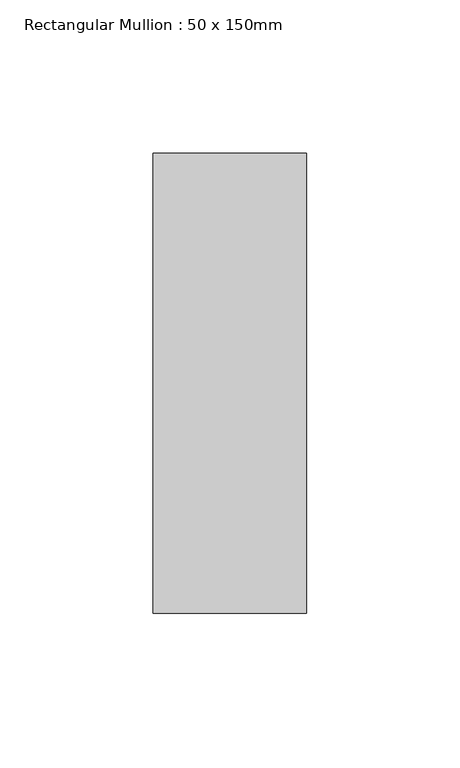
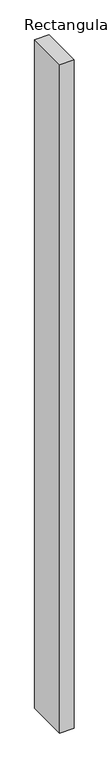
"""IFC4 building model written with IfcOpenShell, lengths in millimetres: member geometry, Rectangular Mullion : 50 x 150mm."""

from ifc_helpers import new_model, si_unit, frame, origin, place, context, project, spatial, polyline, outline, extrude, source, transform, mapped, element, save


def rectangular_mullion_50_x_150mm_548d5156(model_context):
    return source(origin(), model_context, "Body", "SweptSolid", [
        extrude(outline(polyline([(0.0, 75.0), (0.0, -75.0), (-50.0, -75.0), (-50.0, 75.0), (0.0, 75.0)])), frame((0.0, 0.0, -2445.0), z_axis=(0.0, 0.0, 1.0), x_axis=(1.0, 0.0, 0.0)), (0.0, 0.0, 1.0), 2445.0),
    ])


if __name__ == "__main__":
    model = new_model("IFC4")
    model_context = context("Model", 3, world=origin())
    ifc_project = project(units=[si_unit("LENGTHUNIT", "METRE", prefix="MILLI")], contexts=[model_context])
    site = spatial("IfcSite", under=ifc_project)
    building = spatial("IfcBuilding", under=site)
    placement = place(None, origin())
    rectangular_mullion_50_x_150mm_shape = rectangular_mullion_50_x_150mm_548d5156(model_context)
    element("IfcMember", 1, ObjectType="Rectangular Mullion : 50 x 150mm", at=placement, inside=building, context=model_context, shape_type="MappedRepresentation", body=[
        mapped(rectangular_mullion_50_x_150mm_shape, transform((0.0, 0.0, 0.0), x_axis=(1.0, 0.0, 0.0), y_axis=(0.0, 1.0, 0.0), z_axis=(0.0, 0.0, 1.0))),
    ])
    save(model, "model.ifc")
